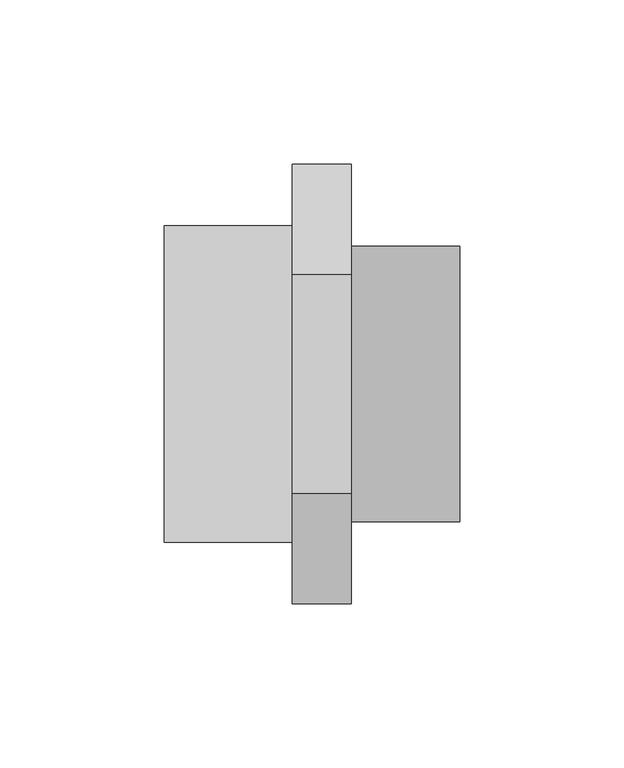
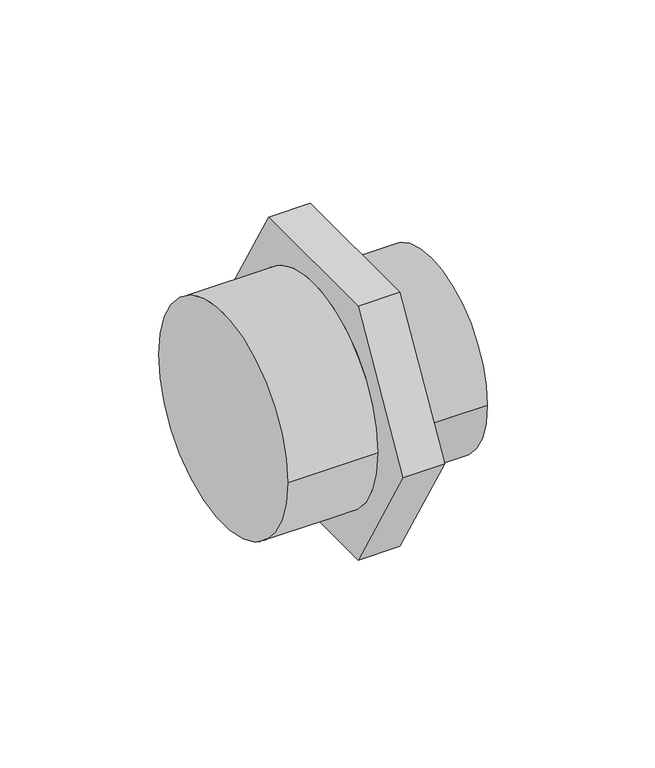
"""IFC4 building model written with IfcOpenShell, lengths in millimetres: pipe fitting geometry, 01011197 : Mamelons doubles réduction."""

from ifc_helpers import new_model, si_unit, frame, origin, place, context, project, spatial, circle_curve, source, transform, mapped, element, save
from ifc_brep_helpers import plane_surface, cylinder_surface, advanced_brep


def pipe_fitting_d4bf85d0(model_context):
    return source(origin(), model_context, "Body", "AdvancedBrep", [
        advanced_brep(
        [(57.0, -33.4863156, 58.0), (57.0, -66.9726312, 0.0), (57.0, -33.4863156, -58.0), (57.0, 33.4863156, -58.0), (57.0, 66.9726312, 0.0), (57.0, 33.4863156, 58.0), (57.0, -41.91, 0.0), (57.0, 41.91, 0.0), (39.0, -33.4863156, 58.0), (39.0, 33.4863156, 58.0), (39.0, 66.9726312, 0.0), (39.0, 33.4863156, -58.0), (39.0, -33.4863156, -58.0), (39.0, -66.9726312, 0.0), (39.0, 48.26, 0.0), (39.0, -48.26, 0.0), (90.0, -41.91, 0.0), (90.0, 41.91, 0.0), (0.0, 48.26, 0.0), (0.0, -48.26, 0.0)],
        [
            (0, 1),
            (1, 2),
            (2, 3),
            (3, 4),
            (4, 5),
            (5, 0),
            (6, 7, circle_curve(frame((57.0, 0.0, 0.0), z_axis=(-1.0, 0.0, 0.0), x_axis=(0.0, 1.0, 0.0)), 41.91)),
            (7, 6, circle_curve(frame((57.0, 0.0, 0.0), z_axis=(-1.0, 0.0, 0.0), x_axis=(0.0, 1.0, 0.0)), 41.91)),
            (8, 9),
            (9, 10),
            (10, 11),
            (11, 12),
            (12, 13),
            (13, 8),
            (14, 15, circle_curve(frame((39.0, 0.0, 0.0), z_axis=(1.0, 0.0, 0.0), x_axis=(0.0, -1.0, 0.0)), 48.26)),
            (15, 14, circle_curve(frame((39.0, 0.0, 0.0), z_axis=(1.0, 0.0, 0.0), x_axis=(0.0, -1.0, 0.0)), 48.26)),
            (0, 8),
            (13, 1),
            (12, 2),
            (11, 3),
            (10, 4),
            (9, 5),
            (16, 17, circle_curve(frame((90.0, 0.0, 0.0), z_axis=(1.0, 0.0, 0.0), x_axis=(0.0, 1.0, 0.0)), 41.91)),
            (17, 16, circle_curve(frame((90.0, 0.0, 0.0), z_axis=(1.0, 0.0, 0.0), x_axis=(0.0, 1.0, 0.0)), 41.91)),
            (17, 7),
            (6, 16),
            (18, 19, circle_curve(frame((0.0, 0.0, 0.0), z_axis=(-1.0, 0.0, 0.0), x_axis=(0.0, -1.0, 0.0)), 48.26)),
            (19, 18, circle_curve(frame((0.0, 0.0, 0.0), z_axis=(-1.0, 0.0, 0.0), x_axis=(0.0, -1.0, 0.0)), 48.26)),
            (19, 15),
            (14, 18),
        ],
        [
            plane_surface(frame((57.0, -33.4863156, 58.0), z_axis=(1.0, 0.0, 0.0), x_axis=(0.0, -0.500000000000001, -0.866025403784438))),
            plane_surface(frame((39.0, -33.4863156, 58.0), z_axis=(-1.0, 0.0, 0.0), x_axis=(0.0, 0.500000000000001, 0.866025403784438))),
            plane_surface(frame((57.0, -33.4863156, 58.0), z_axis=(0.0, -0.866025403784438, 0.500000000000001), x_axis=(-1.0, 0.0, 0.0))),
            plane_surface(frame((57.0, -66.9726312, 0.0), z_axis=(0.0, -0.866025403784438, -0.5000000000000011), x_axis=(-1.0, 0.0, 0.0))),
            plane_surface(frame((57.0, -33.4863156, -58.0), z_axis=(0.0, 0.0, -1.0), x_axis=(-1.0, 0.0, 0.0))),
            plane_surface(frame((57.0, 33.4863156, -58.0), z_axis=(0.0, 0.8660254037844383, -0.5000000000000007), x_axis=(-1.0, 0.0, 0.0))),
            plane_surface(frame((57.0, 66.9726312, 0.0), z_axis=(0.0, 0.8660254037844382, 0.500000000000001), x_axis=(-1.0, 0.0, 0.0))),
            plane_surface(frame((57.0, 33.4863156, 58.0), z_axis=(0.0, 0.0, 1.0), x_axis=(-1.0, 0.0, 0.0))),
            plane_surface(frame((90.0, 0.0, 0.0), z_axis=(1.0, 0.0, 0.0), x_axis=(0.0, 0.0, 1.0))),
            cylinder_surface(frame((57.0, 0.0, 0.0), z_axis=(-1.0, 0.0, 0.0), x_axis=(0.0, 1.0, 0.0)), 41.91),
            plane_surface(frame((0.0, 0.0, 0.0), z_axis=(-1.0, 0.0, 0.0), x_axis=(0.0, 0.0, 1.0))),
            cylinder_surface(frame((39.0, 0.0, 0.0), z_axis=(1.0, 0.0, 0.0), x_axis=(0.0, -1.0, 0.0)), 48.26),
        ],
        [
            (0, [[1, 2, 3, 4, 5, 6], [7, 8]]),
            (1, [[9, 10, 11, 12, 13, 14], [15, 16]]),
            (2, [[-1, 17, -14, 18]]),
            (3, [[-2, -18, -13, 19]]),
            (4, [[-3, -19, -12, 20]]),
            (5, [[-4, -20, -11, 21]]),
            (6, [[-5, -21, -10, 22]]),
            (7, [[-6, -22, -9, -17]]),
            (8, [[23, 24]]),
            (9, [[-24, 25, -7, 26]]),
            (9, [[-23, -26, -8, -25]]),
            (10, [[27, 28]]),
            (11, [[-28, 29, -15, 30]]),
            (11, [[-27, -30, -16, -29]]),
        ],
    ),
    ])


if __name__ == "__main__":
    model = new_model("IFC4")
    model_context = context("Model", 3, world=origin())
    ifc_project = project(units=[si_unit("LENGTHUNIT", "METRE", prefix="MILLI")], contexts=[model_context])
    site = spatial("IfcSite", under=ifc_project)
    building = spatial("IfcBuilding", under=site)
    placement = place(None, origin())
    pipe_fitting_shape = pipe_fitting_d4bf85d0(model_context)
    element("IfcPipeFitting", 1, ObjectType="01011197 : Mamelons doubles réduction", at=placement, inside=building, context=model_context, shape_type="MappedRepresentation", body=[
        mapped(pipe_fitting_shape, transform((0.0, 0.0, 0.0), x_axis=(1.0, 0.0, 0.0), y_axis=(0.0, 1.0, 0.0), z_axis=(0.0, 0.0, 1.0))),
    ])
    save(model, "model.ifc")
